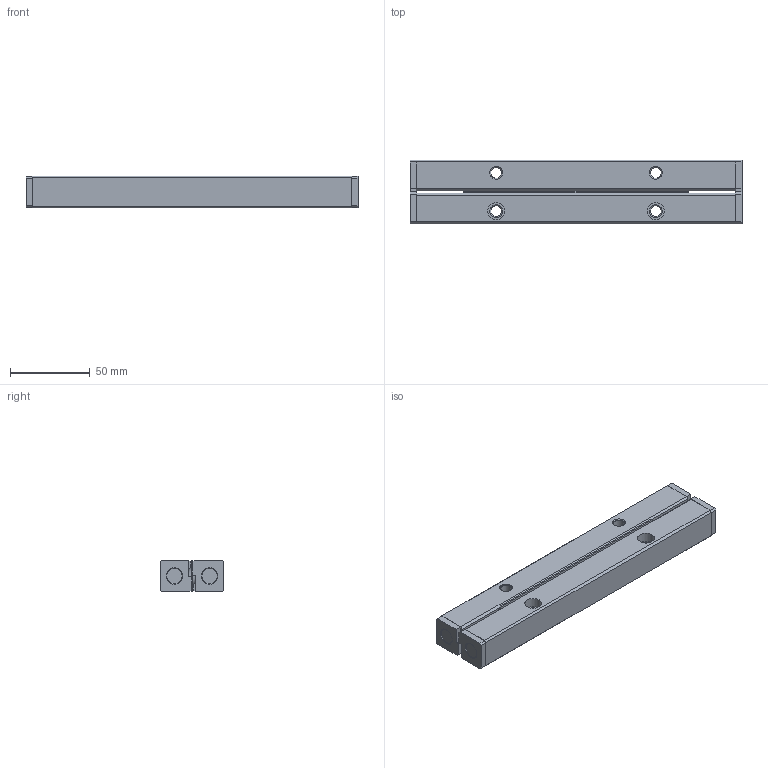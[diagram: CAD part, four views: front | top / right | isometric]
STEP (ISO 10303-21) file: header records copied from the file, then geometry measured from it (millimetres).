
FILE_DESCRIPTION(/* description */ ('STEP AP214'),/* implementation_level */ '2;1');
FILE_NAME(/* name */ 'VR9-200HX10Z(0)',/* time_stamp */ '2024-09-19T10:00:29+02:00',/* author */ ('License CC BY-ND 4.0'),/* organization */ ('CADENAS'),/* preprocessor_version */ 'ST-DEVELOPER v19.3',/* originating_system */ 'PARTsolutions',/* authorisation */ ' ');
FILE_SCHEMA (('AUTOMOTIVE_DESIGN {1 0 10303 214 3 1 1}'));
Length unit declared in the file: millimetre
Products named in the file (4): VR9-200HX10Z(0); VR9-200*10Z Roller guide; VR9-200*10Z Roller cage; VR9-200*10Z Roller guide; Top
Assembly tree (3 placements, depth 2):
  VR9-200HX10Z(0)
    VR9-200*10Z Roller guide
    VR9-200*10Z Roller cage
    VR9-200*10Z Roller guide; Top
Bounding box: 208 x 40 x 20 mm (x, y, z)
Volume: 148756.5 mm3; surface area: 44224 mm2
Topology: 3 solids, 3 shells, 218 faces, 576 edges, 372 vertices
Faces by surface type: plane 168, cone 32, cylinder 18
Full cylindrical faces by diameter (mm): 6.8 x4, 9 x10, 10.5 x4
Entity records: 6611 total; most frequent: CARTESIAN_POINT 1120, DIRECTION 1082, ORIENTED_EDGE 1052, EDGE_CURVE 526, LINE 414, VECTOR 414, VERTEX_POINT 372, AXIS2_PLACEMENT_3D 334
